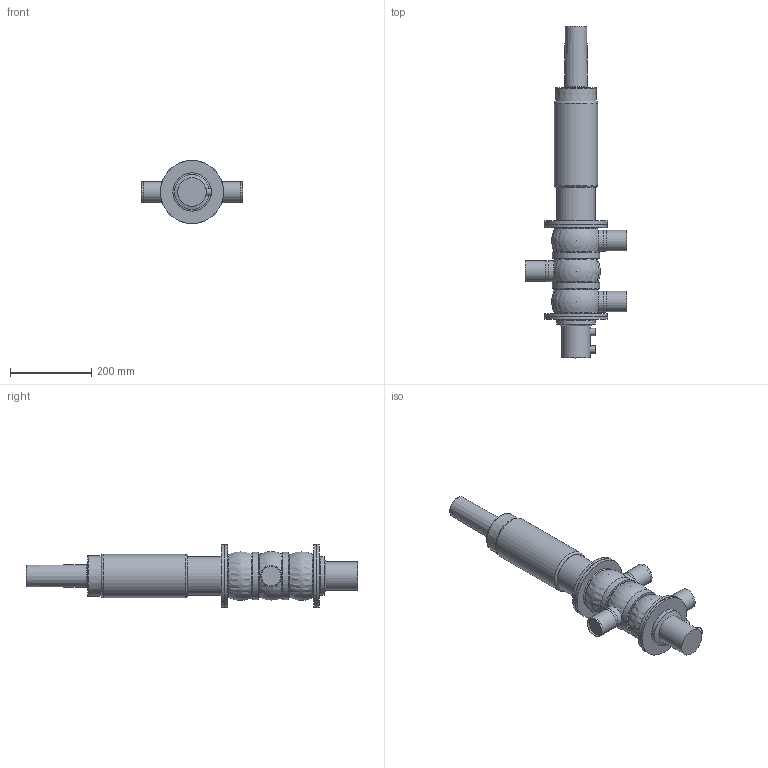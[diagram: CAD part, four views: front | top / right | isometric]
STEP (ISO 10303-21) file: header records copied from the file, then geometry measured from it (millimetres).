
FILE_DESCRIPTION(/* description */ ('Creo Elements/Direct Modeling STEP Export'),/* implementation_level */ '2;1');
FILE_NAME(/* name */ 'O:\Benutzer\Trimpop\DU4 SL\Makros\DU4 SL_VSM_stp\DU45(1-7-9)-2inch SL_VSM.stp',/* time_stamp */ '2021-10-01T14:11:39+02:00',/* author */ ('KERAMN'),/* organization */ (''),/* preprocessor_version */ 'ST-DEVELOPER v18.1',/* originating_system */ 'Autodesk Inventor 2020',/* authorisation */ '');
FILE_SCHEMA (('AUTOMOTIVE_DESIGN { 1 0 10303 214 3 1 1 }'));
Length unit declared in the file: millimetre
Products named in the file (6): DU45(1-7-9)-2inch SL_VSM; actuator_D4SL-100_yoke; DU45-2T(1-7-9)_Shrinkwrap_1; lid housing DU4-62 simplified; drain_pipe_62; D4_Prox._holder
Assembly tree (5 placements, depth 2):
  DU45(1-7-9)-2inch SL_VSM
    actuator_D4SL-100_yoke
    DU45-2T(1-7-9)_Shrinkwrap_1
    lid housing DU4-62 simplified
    drain_pipe_62
    D4_Prox._holder
Bounding box: 250 x 816.35 x 155 mm (x, y, z)
Volume: 6829542.8 mm3; surface area: 465764.6 mm2
Topology: 5 solids, 5 shells, 84 faces, 190 edges, 139 vertices
Faces by surface type: plane 35, cylinder 32, torus 7, cone 4, sphere 3, bspline 3
Full cylindrical faces by diameter (mm): 18 x2, 47.6 x3, 50.8 x3, 51.8 x3, 60 x1, 68 x1, 70 x1, 82.9 x1, 85 x1, 85.1 x1, 94 x1, 96 x1, 105.8 x3, 107 x1, 108.3 x3, 117 x2, 155 x4
Entity records: 2902 total; most frequent: CARTESIAN_POINT 661, DIRECTION 506, ORIENTED_EDGE 368, AXIS2_PLACEMENT_3D 234, EDGE_CURVE 184, CIRCLE 141, VERTEX_POINT 139, EDGE_LOOP 113
